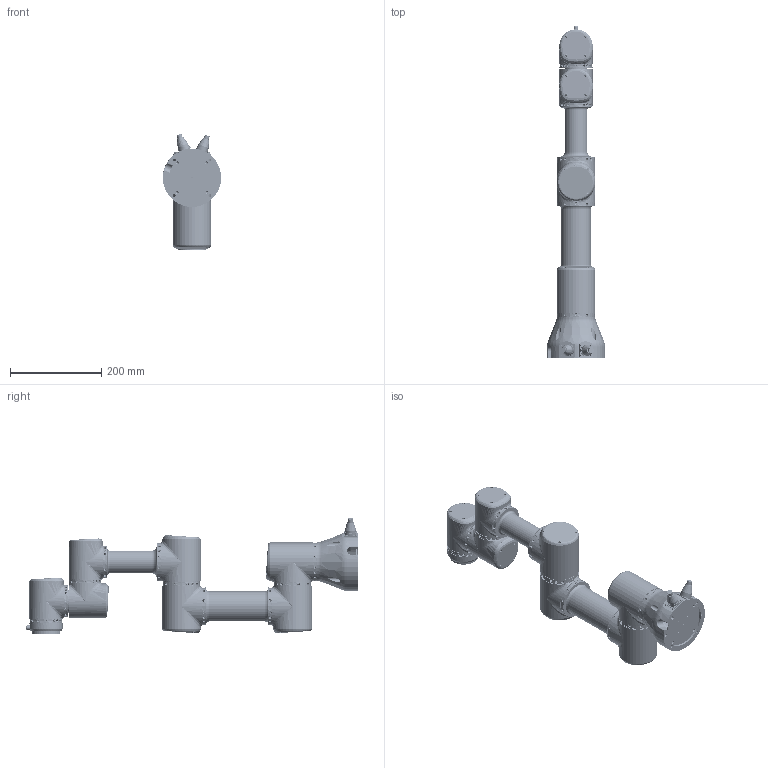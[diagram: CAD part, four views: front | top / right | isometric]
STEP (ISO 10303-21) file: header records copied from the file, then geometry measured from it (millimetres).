
FILE_DESCRIPTION (( 'STEP AP203' ), '1' );
FILE_NAME ('eRobo3.STEP', '2021-03-18T03:18:35', ( '' ), ( '' ), 'SwSTEP 2.0', 'SolidWorks 2016', '' );
FILE_SCHEMA (( 'CONFIG_CONTROL_DESIGN' ));
Length unit declared in the file: millimetre
Products named in the file (28): 2-054-002 3kg媼壽誹蟀裝; ZCT0012-70T-003-0 T倰70綴裔; eDriver-Rob14俋楷唳; eRobo3; 錨船T倰8020201125; eRob80T; 鎮豝; ZCT0022-80T-002-0 T倰80綴裔; 80T型芯轴侧面螺丝-自己外发档; 3-130-001 徹盄鍼踢; M3-7-6肣蹟翐; T倰70俋褲20210204; ZCT0012-70T-005-0 T倰Pcb綴裔; T倰80俋褲; 瑤脣鼠芛; 怀堤楊擘瑤脣; 2-054-004 3kg三轴转接1; 瑤脣; 2-054-006 3kg藺傷楊擘; 2-054-003 3kg三轴转接2; 2-054-001 3kg菁釱; T倰80Pcb綴裔俋楷唳; ZCT0012-70T-002-0 T倰70郋粣潠趙; hexagon socket head cap screws gb_GB_FASTENER_SCREWS_HSHCS M3X5-N; 3-054-001 菁釱鍼踢; 2-054-005 3kg三关节连杆; eRob70T; 2-80T-002 T倰80綴裔
Assembly tree (41 placements, depth 3):
  eRobo3
    eRob80T  x3
      錨船T倰8020201125
      80T型芯轴侧面螺丝-自己外发档
      eDriver-Rob14俋楷唳
      T倰80Pcb綴裔俋楷唳
      M3-7-6肣蹟翐
      hexagon socket head cap screws gb_GB_FASTENER_SCREWS_HSHCS M3X5-N
      ZCT0022-80T-002-0 T倰80綴裔
    2-054-002 3kg媼壽誹蟀裝
    eRob70T  x3
      eDriver-Rob14俋楷唳
      T倰70俋褲20210204
      ZCT0012-70T-002-0 T倰70郋粣潠趙
      ZCT0012-70T-003-0 T倰70綴裔
      ZCT0012-70T-005-0 T倰Pcb綴裔
    2-80T-002 T倰80綴裔
    2-054-003 3kg三轴转接2
    2-054-004 3kg三轴转接1
    2-054-005 3kg三关节连杆
    2-054-006 3kg藺傷楊擘
    2-054-001 3kg菁釱
    瑤脣  x2
    瑤脣鼠芛  x2
    3-130-001 徹盄鍼踢  x3
    3-054-001 菁釱鍼踢
    鎮豝
    怀堤楊擘瑤脣
    T倰80俋褲
Bounding box: 128 x 728 x 255.4 mm (x, y, z)
Volume: 3841633.5 mm3; surface area: 984039.3 mm2
Topology: 93 solids, 174 shells, 17472 faces, 46405 edges, 29773 vertices
Faces by surface type: plane 10756, cylinder 4043, bspline 1475, cone 932, torus 254, sphere 12
Entity records: 231823 total; most frequent: CARTESIAN_POINT 87188, ORIENTED_EDGE 30112, DIRECTION 27441, EDGE_CURVE 15056, VERTEX_POINT 9820, VECTOR 9221, LINE 9221, AXIS2_PLACEMENT_3D 9110
